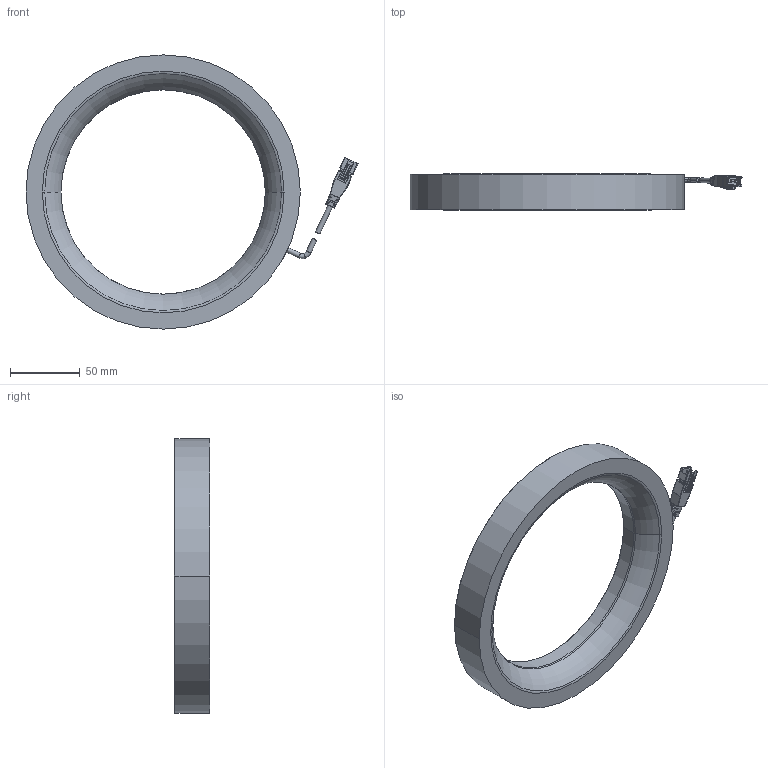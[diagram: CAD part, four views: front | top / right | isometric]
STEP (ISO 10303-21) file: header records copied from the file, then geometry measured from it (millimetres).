
FILE_DESCRIPTION((''),'2;1');
FILE_NAME('P-HRL-180_ASM','2014-06-18T',('Administrator'),(''),'PRO/ENGINEER BY PARAMETRIC TECHNOLOGY CORPORATION, 2011220','PRO/ENGINEER BY PARAMETRIC TECHNOLOGY CORPORATION, 2011220','');
FILE_SCHEMA(('CONFIG_CONTROL_DESIGN'));
Length unit declared in the file: millimetre
Products named in the file (5): WAIKE; LINE_TOU; BODY_12; ASSY_ASM; P-HRL-180_ASM
Assembly tree (4 placements, depth 3):
  P-HRL-180_ASM
    WAIKE
    ASSY_ASM
      LINE_TOU
      BODY_12
Bounding box: 237.21 x 25.5 x 196 mm (x, y, z)
Volume: 310818.6 mm3; surface area: 53707.1 mm2
Topology: 3 solids, 7 shells, 269 faces, 668 edges, 415 vertices
Faces by surface type: plane 134, cylinder 87, torus 18, cone 14, bspline 8, sphere 8
Entity records: 8287 total; most frequent: CARTESIAN_POINT 1724, DIRECTION 1398, ORIENTED_EDGE 1304, EDGE_CURVE 660, AXIS2_PLACEMENT_3D 500, VERTEX_POINT 415, VECTOR 398, LINE 398
